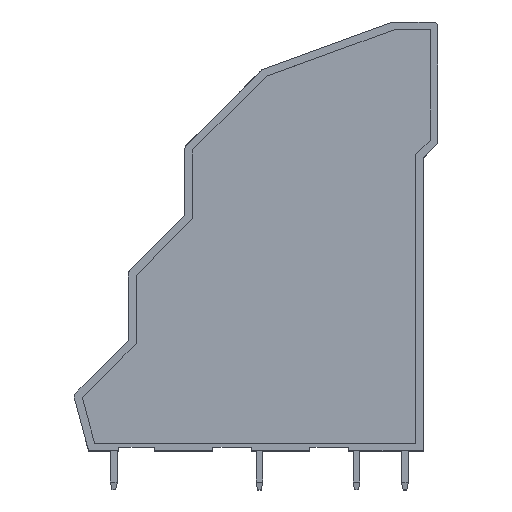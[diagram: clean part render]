
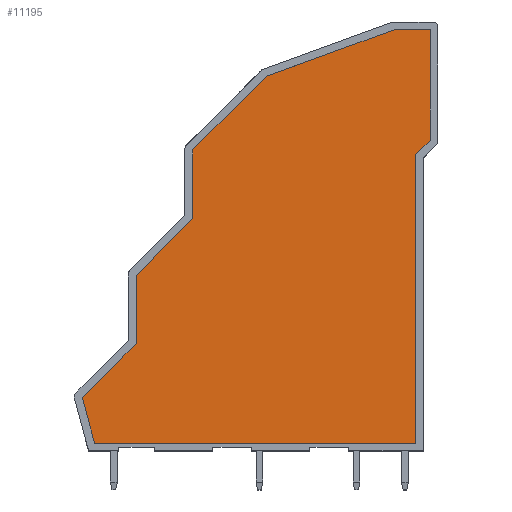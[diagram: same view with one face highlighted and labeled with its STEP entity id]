
A CAD part, top view. The second image highlights one B-rep face of the part: STEP entity #11195.
In plain terms, the highlighted planar face has unit normal (0, 0, 1).
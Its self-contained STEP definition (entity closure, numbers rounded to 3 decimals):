
#3077=DIRECTION('',(0.707,0.707,0.));
#3078=VECTOR('',#3077,10.742);
#3079=CARTESIAN_POINT('',(12.232,31.014,7.04));
#3080=LINE('',#3079,#3078);
#3081=DIRECTION('',(0.94,0.342,0.));
#3082=VECTOR('',#3081,14.005);
#3083=CARTESIAN_POINT('',(19.828,38.61,7.04));
#3084=LINE('',#3083,#3082);
#3085=DIRECTION('',(1.,0.,0.));
#3086=VECTOR('',#3085,3.711);
#3087=CARTESIAN_POINT('',(32.989,43.4,7.04));
#3088=LINE('',#3087,#3086);
#3089=DIRECTION('',(0.,-1.,0.));
#3090=VECTOR('',#3089,11.369);
#3091=CARTESIAN_POINT('',(36.7,43.4,7.04));
#3092=LINE('',#3091,#3090);
#3093=DIRECTION('',(-0.707,-0.707,0.));
#3094=VECTOR('',#3093,2.121);
#3095=CARTESIAN_POINT('',(36.7,32.031,7.04));
#3096=LINE('',#3095,#3094);
#3097=DIRECTION('',(0.,-1.,0.));
#3098=VECTOR('',#3097,29.731);
#3099=CARTESIAN_POINT('',(35.2,30.531,7.04));
#3100=LINE('',#3099,#3098);
#3101=DIRECTION('',(-1.,0.,0.));
#3102=VECTOR('',#3101,33.086);
#3103=CARTESIAN_POINT('',(35.2,0.8,7.04));
#3104=LINE('',#3103,#3102);
#3105=DIRECTION('',(-0.259,0.966,0.));
#3106=VECTOR('',#3105,4.861);
#3107=CARTESIAN_POINT('',(2.114,0.8,7.04));
#3108=LINE('',#3107,#3106);
#3109=DIRECTION('',(0.707,0.707,0.));
#3110=VECTOR('',#3109,7.841);
#3111=CARTESIAN_POINT('',(0.856,5.495,7.04));
#3112=LINE('',#3111,#3110);
#3113=DIRECTION('',(0.,1.,0.));
#3114=VECTOR('',#3113,7.071);
#3115=CARTESIAN_POINT('',(6.4,11.04,7.04));
#3116=LINE('',#3115,#3114);
#3117=DIRECTION('',(0.707,0.707,0.));
#3118=VECTOR('',#3117,8.248);
#3119=CARTESIAN_POINT('',(6.4,18.111,7.04));
#3120=LINE('',#3119,#3118);
#3121=DIRECTION('',(0.,1.,0.));
#3122=VECTOR('',#3121,7.071);
#3123=CARTESIAN_POINT('',(12.232,23.943,7.04));
#3124=LINE('',#3123,#3122);
#6205=CARTESIAN_POINT('',(19.828,38.61,7.04));
#6206=VERTEX_POINT('',#6205);
#6207=CARTESIAN_POINT('',(12.232,31.014,7.04));
#6208=VERTEX_POINT('',#6207);
#6209=CARTESIAN_POINT('',(32.989,43.4,7.04));
#6210=VERTEX_POINT('',#6209);
#6211=CARTESIAN_POINT('',(36.7,43.4,7.04));
#6212=VERTEX_POINT('',#6211);
#6213=CARTESIAN_POINT('',(36.7,32.031,7.04));
#6214=VERTEX_POINT('',#6213);
#6215=CARTESIAN_POINT('',(35.2,30.531,7.04));
#6216=VERTEX_POINT('',#6215);
#6217=CARTESIAN_POINT('',(35.2,0.8,7.04));
#6218=VERTEX_POINT('',#6217);
#6219=CARTESIAN_POINT('',(2.114,0.8,7.04));
#6220=VERTEX_POINT('',#6219);
#6221=CARTESIAN_POINT('',(0.856,5.495,7.04));
#6222=VERTEX_POINT('',#6221);
#6223=CARTESIAN_POINT('',(6.4,11.04,7.04));
#6224=VERTEX_POINT('',#6223);
#6225=CARTESIAN_POINT('',(6.4,18.111,7.04));
#6226=VERTEX_POINT('',#6225);
#6227=CARTESIAN_POINT('',(12.232,23.943,7.04));
#6228=VERTEX_POINT('',#6227);
#11176=CARTESIAN_POINT('',(37.5,813.386,7.04));
#11177=DIRECTION('',(0.,0.,1.));
#11178=DIRECTION('',(1.,0.,0.));
#11179=AXIS2_PLACEMENT_3D('',#11176,#11177,#11178);
#11180=PLANE('',#11179);
#11181=ORIENTED_EDGE('',*,*,#11016,.T.);
#11182=ORIENTED_EDGE('',*,*,#11031,.T.);
#11183=ORIENTED_EDGE('',*,*,#11045,.T.);
#11184=ORIENTED_EDGE('',*,*,#11059,.T.);
#11185=ORIENTED_EDGE('',*,*,#11073,.T.);
#11186=ORIENTED_EDGE('',*,*,#11087,.T.);
#11187=ORIENTED_EDGE('',*,*,#11101,.T.);
#11188=ORIENTED_EDGE('',*,*,#11115,.T.);
#11189=ORIENTED_EDGE('',*,*,#11129,.T.);
#11190=ORIENTED_EDGE('',*,*,#11143,.T.);
#11191=ORIENTED_EDGE('',*,*,#11157,.T.);
#11192=ORIENTED_EDGE('',*,*,#11170,.T.);
#11193=EDGE_LOOP('',(#11181,#11182,#11183,#11184,#11185,#11186,#11187,#11188,
#11189,#11190,#11191,#11192));
#11194=FACE_OUTER_BOUND('',#11193,.F.);
#11195=ADVANCED_FACE('',(#11194),#11180,.T.);
#11016=EDGE_CURVE('',#6208,#6206,#3080,.T.);
#11031=EDGE_CURVE('',#6206,#6210,#3084,.T.);
#11045=EDGE_CURVE('',#6210,#6212,#3088,.T.);
#11059=EDGE_CURVE('',#6212,#6214,#3092,.T.);
#11073=EDGE_CURVE('',#6214,#6216,#3096,.T.);
#11087=EDGE_CURVE('',#6216,#6218,#3100,.T.);
#11101=EDGE_CURVE('',#6218,#6220,#3104,.T.);
#11115=EDGE_CURVE('',#6220,#6222,#3108,.T.);
#11129=EDGE_CURVE('',#6222,#6224,#3112,.T.);
#11143=EDGE_CURVE('',#6224,#6226,#3116,.T.);
#11157=EDGE_CURVE('',#6226,#6228,#3120,.T.);
#11170=EDGE_CURVE('',#6228,#6208,#3124,.T.);
